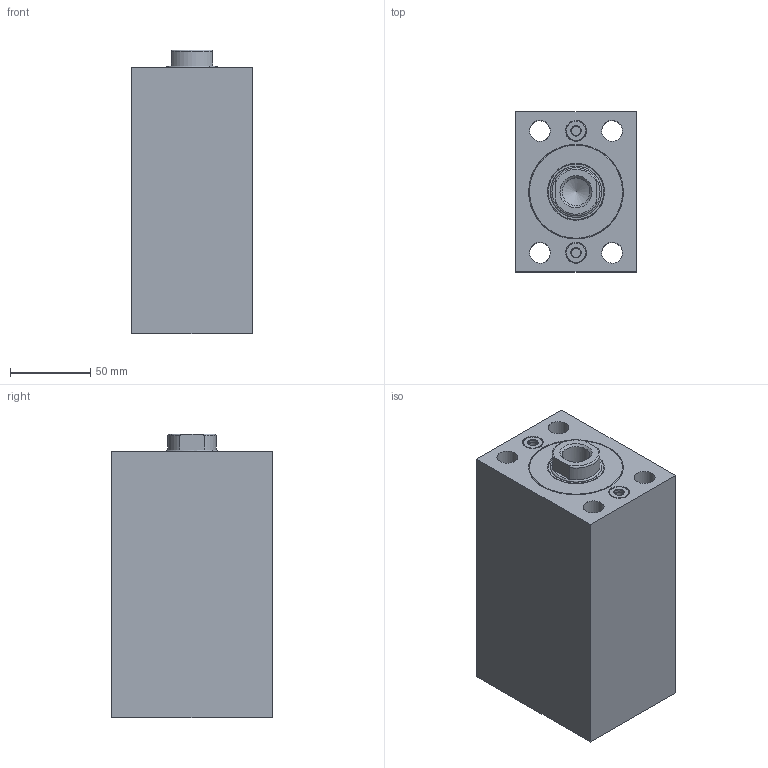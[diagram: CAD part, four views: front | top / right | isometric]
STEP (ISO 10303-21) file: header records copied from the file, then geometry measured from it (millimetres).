
FILE_DESCRIPTION( ( 'STEP AP203' ), '1' );
FILE_NAME( 'C:/Users/SAYKO.ltd/Desktop/SBZ100/07/SBZ100-50/SBZ100.50__FORM_07_STROKE_80__H2_58_POS_0_.stp', ' ', ( ' ' ), ( ' ' ), 'PSStep 15.0.47', 'PARTsolutions', ' ' );
FILE_SCHEMA( ( 'CONFIG_CONTROL_DESIGN' ) );
Length unit declared in the file: millimetre
Products named in the file (5): SBZ100.50  FORM=07 STROKE=80 (H2=58 POS=0); HI_SBZ10050  FORM=07 STROKE=80 H2=58 -C; HI_SBZ10050  FORM=07 STROKE=80-R; HI_SBZ100.50-C; HI_SBZ100.50-S
Assembly tree (4 placements, depth 2):
  SBZ100.50  FORM=07 STROKE=80 (H2=58 POS=0)
    HI_SBZ10050  FORM=07 STROKE=80 H2=58 -C
    HI_SBZ10050  FORM=07 STROKE=80-R
    HI_SBZ100.50-C
    HI_SBZ100.50-S
Bounding box: 75 x 100 x 177 mm (x, y, z)
Volume: 1049269.6 mm3; surface area: 169478.3 mm2
Topology: 4 solids, 4 shells, 74 faces, 136 edges, 87 vertices
Faces by surface type: plane 33, cylinder 28, cone 10, torus 3
Full cylindrical faces by diameter (mm): 6 x4, 13 x6, 17.294 x1, 20 x4, 32 x4, 35.5 x1, 40 x2, 50 x2, 59 x2
Entity records: 4047 total; most frequent: CARTESIAN_POINT 2717, ORIENTED_EDGE 188, DIRECTION 178, EDGE_LOOP 140, FACE_OUTER_BOUND 101, EDGE_CURVE 94, VERTEX_POINT 83, AXIS2_PLACEMENT_3D 81
